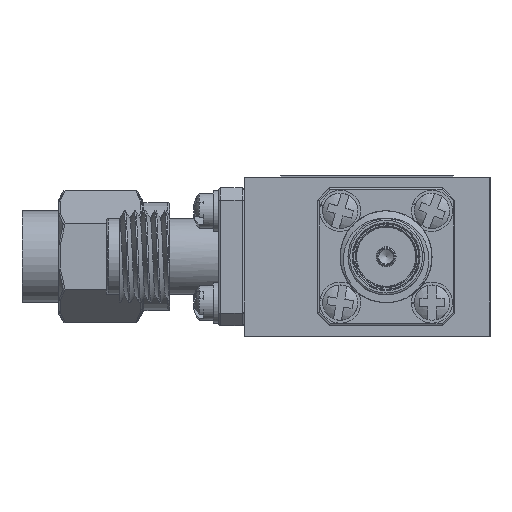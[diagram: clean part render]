
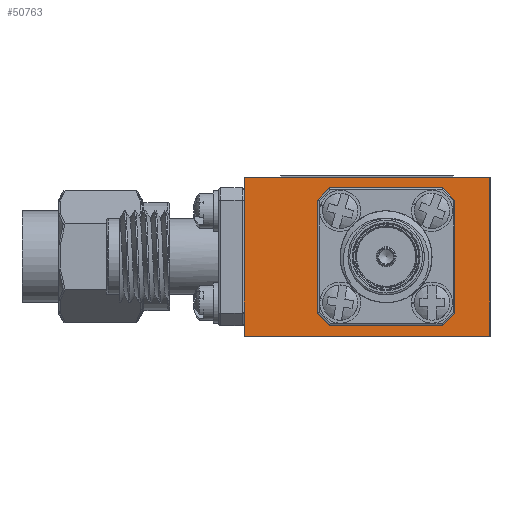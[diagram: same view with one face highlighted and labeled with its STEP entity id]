
A CAD part, left-side view. The second image highlights one B-rep face of the part: STEP entity #50763.
In plain terms, the highlighted planar face has unit normal (-1, 0, 0).
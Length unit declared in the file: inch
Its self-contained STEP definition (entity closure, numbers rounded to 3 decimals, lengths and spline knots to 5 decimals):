
#1527 = PLANE ( 'NONE',  #39274 ) ;
#2237 = CARTESIAN_POINT ( 'NONE',  ( 0., 0.67, 0.2165 ) ) ;
#4527 = CARTESIAN_POINT ( 'NONE',  ( 0., 0., 0.2165 ) ) ;
#5279 = CARTESIAN_POINT ( 'NONE',  ( 0., 0.67, -0.2165 ) ) ;
#7352 = VECTOR ( 'NONE', #39996, 39.37008 ) ;
#8511 = LINE ( 'NONE', #60834, #7352 ) ;
#12808 = FACE_OUTER_BOUND ( 'NONE', #63197, .T. ) ;
#13090 = CARTESIAN_POINT ( 'NONE',  ( 0., 0., 0.2165 ) ) ;
#14669 = VECTOR ( 'NONE', #59255, 39.37008 ) ;
#18229 = LINE ( 'NONE', #54159, #40708 ) ;
#18858 = ORIENTED_EDGE ( 'NONE', *, *, #43530, .F. ) ;
#19563 = CARTESIAN_POINT ( 'NONE',  ( 0., 0., -0.2165 ) ) ;
#23025 = DIRECTION ( 'NONE',  ( 0., -1., 0. ) ) ;
#25418 = EDGE_CURVE ( 'NONE', #59182, #30384, #64527, .T. ) ;
#26295 = VERTEX_POINT ( 'NONE', #4527 ) ;
#28639 = EDGE_CURVE ( 'NONE', #30384, #30985, #18229, .T. ) ;
#30384 = VERTEX_POINT ( 'NONE', #5279 ) ;
#30866 = EDGE_CURVE ( 'NONE', #59182, #26295, #43902, .T. ) ;
#30985 = VERTEX_POINT ( 'NONE', #19563 ) ;
#34109 = CARTESIAN_POINT ( 'NONE',  ( 0., 0.67, 0.2165 ) ) ;
#39274 = AXIS2_PLACEMENT_3D ( 'NONE', #59308, #48713, #54847 ) ;
#39996 = DIRECTION ( 'NONE',  ( 0., 0., -1. ) ) ;
#40708 = VECTOR ( 'NONE', #23025, 39.37008 ) ;
#43530 = EDGE_CURVE ( 'NONE', #26295, #30985, #8511, .T. ) ;
#43902 = LINE ( 'NONE', #13090, #14669 ) ;
#46495 = ORIENTED_EDGE ( 'NONE', *, *, #25418, .T. ) ;
#48713 = DIRECTION ( 'NONE',  ( 1., 0., 0. ) ) ;
#50763 = ADVANCED_FACE ( 'NONE', ( #12808 ), #1527, .F. ) ;
#52248 = ORIENTED_EDGE ( 'NONE', *, *, #28639, .T. ) ;
#54159 = CARTESIAN_POINT ( 'NONE',  ( 0., 0., -0.2165 ) ) ;
#54847 = DIRECTION ( 'NONE',  ( 0., 0., -1. ) ) ;
#54900 = DIRECTION ( 'NONE',  ( 0., 0., -1. ) ) ;
#56025 = VECTOR ( 'NONE', #54900, 39.37008 ) ;
#59182 = VERTEX_POINT ( 'NONE', #34109 ) ;
#59255 = DIRECTION ( 'NONE',  ( 0., -1., 0. ) ) ;
#59308 = CARTESIAN_POINT ( 'NONE',  ( 0., 0., 0.2165 ) ) ;
#60834 = CARTESIAN_POINT ( 'NONE',  ( 0., 0., 0.2165 ) ) ;
#63197 = EDGE_LOOP ( 'NONE', ( #52248, #18858, #64991, #46495 ) ) ;
#64527 = LINE ( 'NONE', #2237, #56025 ) ;
#64991 = ORIENTED_EDGE ( 'NONE', *, *, #30866, .F. ) ;
